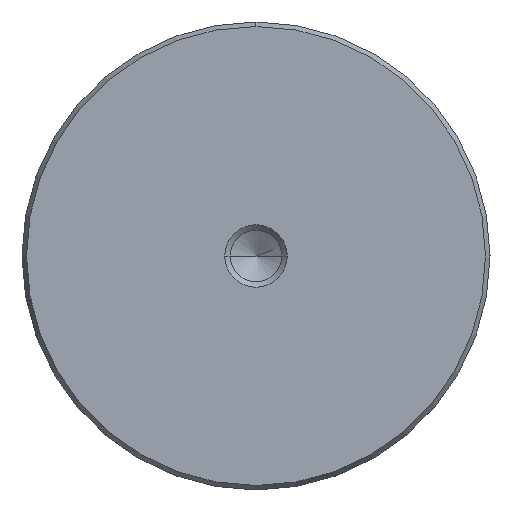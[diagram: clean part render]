
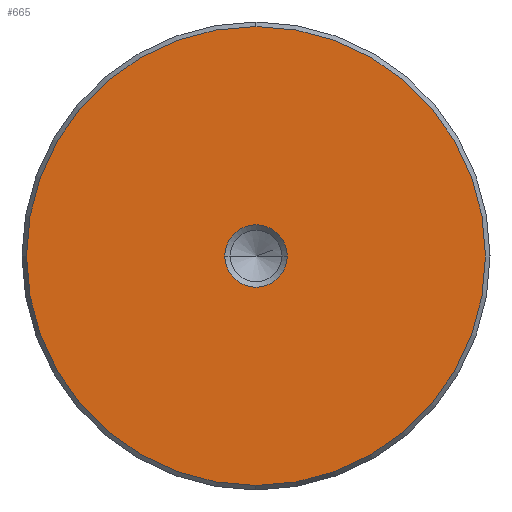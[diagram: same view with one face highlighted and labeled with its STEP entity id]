
A CAD part, left-side view. The second image highlights one B-rep face of the part: STEP entity #665.
In plain terms, the highlighted planar face has unit normal (-1, 0, 0).
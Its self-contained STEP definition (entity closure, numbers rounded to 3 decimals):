
#579=CARTESIAN_POINT('Vertex',(0.,0.,-29.423)) ;
#582=CARTESIAN_POINT('Axis2P3D Location',(0.,0.,0.)) ;
#586=CARTESIAN_POINT('Vertex',(0.,29.423,0.)) ;
#589=CARTESIAN_POINT('Axis2P3D Location',(0.,0.,0.)) ;
#593=CARTESIAN_POINT('Vertex',(0.,0.,29.423)) ;
#615=CARTESIAN_POINT('Axis2P3D Location',(0.,0.,0.)) ;
#619=CARTESIAN_POINT('Vertex',(0.,-29.423,0.)) ;
#622=CARTESIAN_POINT('Axis2P3D Location',(0.,0.,0.)) ;
#636=CARTESIAN_POINT('Axis2P3D Location',(0.,0.,0.)) ;
#647=CARTESIAN_POINT('Axis2P3D Location',(0.,0.,0.)) ;
#651=CARTESIAN_POINT('Vertex',(0.,4.,0.)) ;
#653=CARTESIAN_POINT('Vertex',(0.,-4.,0.)) ;
#656=CARTESIAN_POINT('Axis2P3D Location',(0.,0.,0.)) ;
#583=DIRECTION('Axis2P3D Direction',(1.,0.,-0.)) ;
#590=DIRECTION('Axis2P3D Direction',(1.,0.,-0.)) ;
#616=DIRECTION('Axis2P3D Direction',(1.,0.,-0.)) ;
#623=DIRECTION('Axis2P3D Direction',(1.,0.,-0.)) ;
#637=DIRECTION('Axis2P3D Direction',(1.,0.,-0.)) ;
#638=DIRECTION('Axis2P3D XDirection',(-0.,0.,-1.)) ;
#648=DIRECTION('Axis2P3D Direction',(1.,0.,-0.)) ;
#657=DIRECTION('Axis2P3D Direction',(1.,0.,-0.)) ;
#584=AXIS2_PLACEMENT_3D('Circle Axis2P3D',#582,#583,$) ;
#591=AXIS2_PLACEMENT_3D('Circle Axis2P3D',#589,#590,$) ;
#617=AXIS2_PLACEMENT_3D('Circle Axis2P3D',#615,#616,$) ;
#624=AXIS2_PLACEMENT_3D('Circle Axis2P3D',#622,#623,$) ;
#639=AXIS2_PLACEMENT_3D('Plane Axis2P3D',#636,#637,#638) ;
#649=AXIS2_PLACEMENT_3D('Circle Axis2P3D',#647,#648,$) ;
#658=AXIS2_PLACEMENT_3D('Circle Axis2P3D',#656,#657,$) ;
#642=ORIENTED_EDGE('',*,*,#588,.F.) ;
#643=ORIENTED_EDGE('',*,*,#626,.F.) ;
#644=ORIENTED_EDGE('',*,*,#621,.F.) ;
#645=ORIENTED_EDGE('',*,*,#595,.F.) ;
#662=ORIENTED_EDGE('',*,*,#655,.T.) ;
#663=ORIENTED_EDGE('',*,*,#660,.T.) ;
#664=FACE_BOUND('',#661,.T.) ;
#665=ADVANCED_FACE('720-60x500',(#646,#664),#640,.F.) ;
#585=CIRCLE('generated circle',#584,29.423) ;
#592=CIRCLE('generated circle',#591,29.423) ;
#618=CIRCLE('generated circle',#617,29.423) ;
#625=CIRCLE('generated circle',#624,29.423) ;
#650=CIRCLE('generated circle',#649,4.) ;
#659=CIRCLE('generated circle',#658,4.) ;
#588=EDGE_CURVE('',#580,#587,#585,.T.) ;
#595=EDGE_CURVE('',#587,#594,#592,.T.) ;
#621=EDGE_CURVE('',#594,#620,#618,.T.) ;
#626=EDGE_CURVE('',#620,#580,#625,.T.) ;
#655=EDGE_CURVE('',#652,#654,#650,.T.) ;
#660=EDGE_CURVE('',#654,#652,#659,.T.) ;
#641=EDGE_LOOP('',(#642,#643,#644,#645)) ;
#661=EDGE_LOOP('',(#662,#663)) ;
#646=FACE_OUTER_BOUND('',#641,.T.) ;
#640=PLANE('Plane',#639) ;
#580=VERTEX_POINT('',#579) ;
#587=VERTEX_POINT('',#586) ;
#594=VERTEX_POINT('',#593) ;
#620=VERTEX_POINT('',#619) ;
#652=VERTEX_POINT('',#651) ;
#654=VERTEX_POINT('',#653) ;
